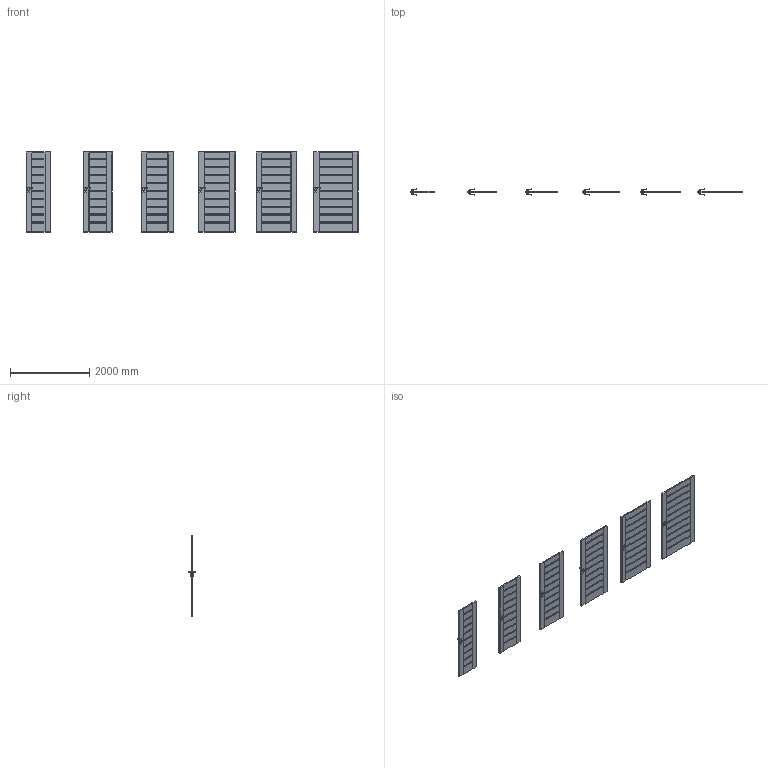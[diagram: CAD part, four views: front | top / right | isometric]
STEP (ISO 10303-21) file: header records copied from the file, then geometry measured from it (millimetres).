
FILE_DESCRIPTION(/* description */ (''),/* implementation_level */ '2;1');
FILE_NAME(/* name */ '049775_A_2-Skrzydło Koncept model A_ polska norma _PN__ bezprzylgowe..stp',/* time_stamp */ '2024-03-14T13:30:24+01:00',/* author */ (''),/* organization */ (''),/* preprocessor_version */ 'ST-DEVELOPER v16',/* originating_system */ 'SIEMENS PLM Software NX 11.0',/* authorisation */ '');
FILE_SCHEMA (('AUTOMOTIVE_DESIGN { 1 0 10303 214 3 1 1 1 }'));
Products named in the file (1): bkni565444CFc81m
Bounding box: 8368 x 153.27 x 2017.01 mm (x, y, z)
Volume: 358511745.1 mm3; surface area: 24448037.7 mm2
Topology: 30 solids, 30 shells, 2400 faces, 6480 edges, 4020 vertices
Faces by surface type: plane 1044, cylinder 996, bspline 192, sphere 168
Entity records: 81081 total; most frequent: CARTESIAN_POINT 22627, ORIENTED_EDGE 12624, DIRECTION 11638, EDGE_CURVE 6312, VERTEX_POINT 4020, AXIS2_PLACEMENT_3D 3965, LINE 3708, VECTOR 3708
